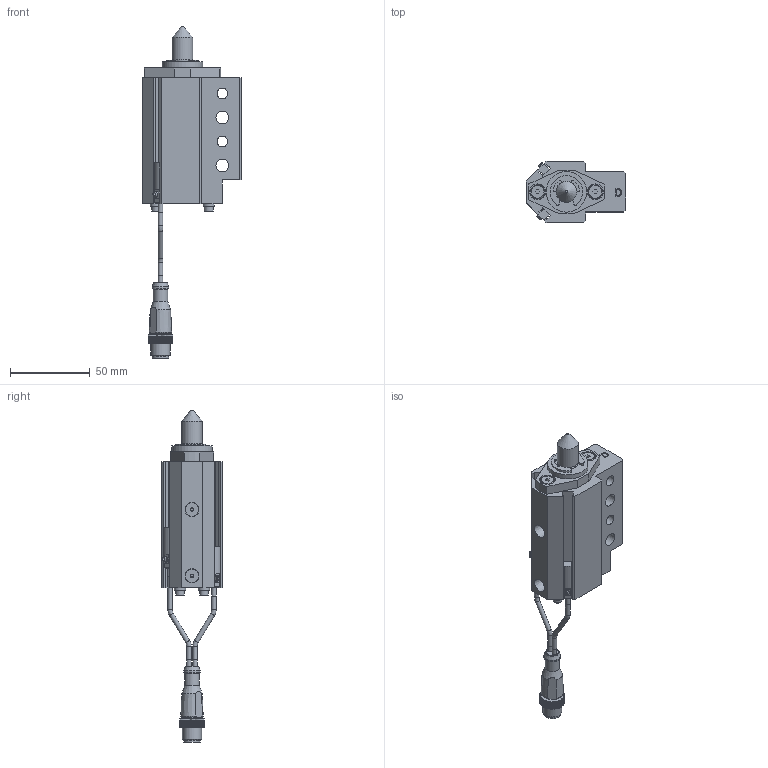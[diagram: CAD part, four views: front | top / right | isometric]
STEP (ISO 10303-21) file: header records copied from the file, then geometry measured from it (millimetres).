
FILE_DESCRIPTION(/* description */ ('NAAMS FLOATING MICRO PIN'),/* implementation_level */ '2;1');
FILE_NAME(/* name */ 'C:\Vault Workspace\CAD\Welker\Shot Pin\NMP\NMP130012ADNL3.stp',/* time_stamp */ '2021-01-27T10:59:27-05:00',/* author */ ('WELKER'),/* organization */ (''),/* preprocessor_version */ 'ST-DEVELOPER v18.1',/* originating_system */ 'Autodesk Inventor 2020',/* authorisation */ '');
FILE_SCHEMA (('AUTOMOTIVE_DESIGN { 1 0 10303 214 3 1 1 }'));
Length unit declared in the file: millimetre
Products named in the file (16): NMPL01; NMP L3 SWITCH; L3 Connector; L3 Sensor 1; L3 Sensor 2; L3 Sensor cable; L3 Sensor cable 2; M3X0.5-8 SHCS; NL3; NMPE06; NMPE03; NMPE05-DIA-LENGTH; 985432A218; NMPE01D-PORT; RMPE02; M5X5 SHOULDER
Assembly tree (22 placements, depth 3):
  NMPL01
    NMP L3 SWITCH
      L3 Connector
      L3 Sensor 1
      L3 Sensor 2
      L3 Sensor cable
      L3 Sensor cable 2
    M3X0.5-8 SHCS  x4
    NL3  x4
    NMPE06
    NMPE03
    NMPE05-DIA-LENGTH
    985432A218
    NMPE01D-PORT
    RMPE02
    M5X5 SHOULDER  x2
Bounding box: 62 x 38.1 x 207.71 mm (x, y, z)
Volume: 112768.4 mm3; surface area: 45180.6 mm2
Topology: 21 solids, 21 shells, 745 faces, 2017 edges, 1348 vertices
Faces by surface type: plane 547, cylinder 143, cone 31, torus 11, bspline 10, sphere 3
Full cylindrical faces by diameter (mm): 2 x2, 2.459 x4, 2.9 x10, 3 x5, 3.242 x2, 3.4 x4, 4 x2, 5 x6, 5.5 x4, 6.647 x2, 7 x4, 8 x2, 8.3 x2, 9 x3, 10 x3, 10.4 x1, 10.5 x1, 12 x1, 13 x3, 16 x2, 19.05 x3, 21 x1, 22.5 x1, 23.672 x1, 24 x1, 25.4 x1, 25.5 x1, 26.5 x1, 28.677 x1, 29.21 x1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
Entity records: 22760 total; most frequent: CARTESIAN_POINT 4217, ORIENTED_EDGE 3732, DIRECTION 3686, EDGE_CURVE 1866, LINE 1374, VECTOR 1374, VERTEX_POINT 1253, AXIS2_PLACEMENT_3D 1156
